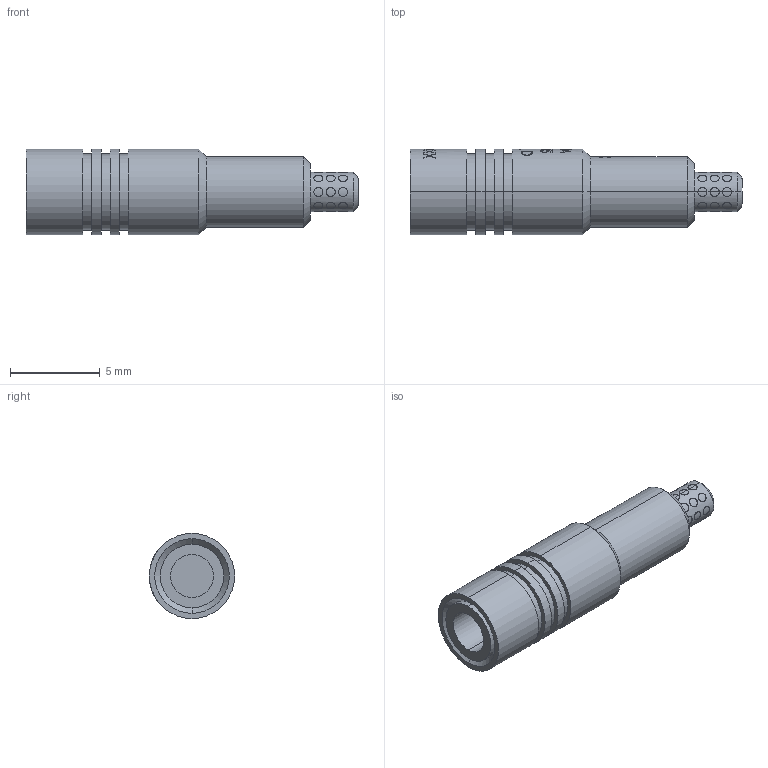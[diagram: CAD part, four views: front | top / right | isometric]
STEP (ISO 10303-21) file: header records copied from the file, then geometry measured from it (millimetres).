
FILE_DESCRIPTION (( 'STEP AP214' ), '1' );
FILE_NAME ('3DJEBA1875---D.STEP', '2013-05-01T21:15:05', ( 'tlc' ), ( 'Microsoft' ), 'SwSTEP 2.0', 'SolidWorks 2012', '' );
FILE_SCHEMA (( 'AUTOMOTIVE_DESIGN' ));
Length unit declared in the file: inch
Products named in the file (1): 3DJEBA1875---D
Bounding box: 18.54 x 4.76 x 4.76 mm (x, y, z)
Volume: 226.2 mm3; surface area: 338.4 mm2
Topology: 1 solids, 1 shells, 371 faces, 905 edges, 592 vertices
Faces by surface type: bspline 171, plane 105, cylinder 83, cone 10, torus 2
Entity records: 19506 total; most frequent: CARTESIAN_POINT 8021, ORIENTED_EDGE 1810, DIRECTION 953, EDGE_CURVE 905, VERTEX_POINT 592, B_SPLINE_CURVE_WITH_KNOTS 560, EDGE_LOOP 427, AXIS2_PLACEMENT_3D 407
